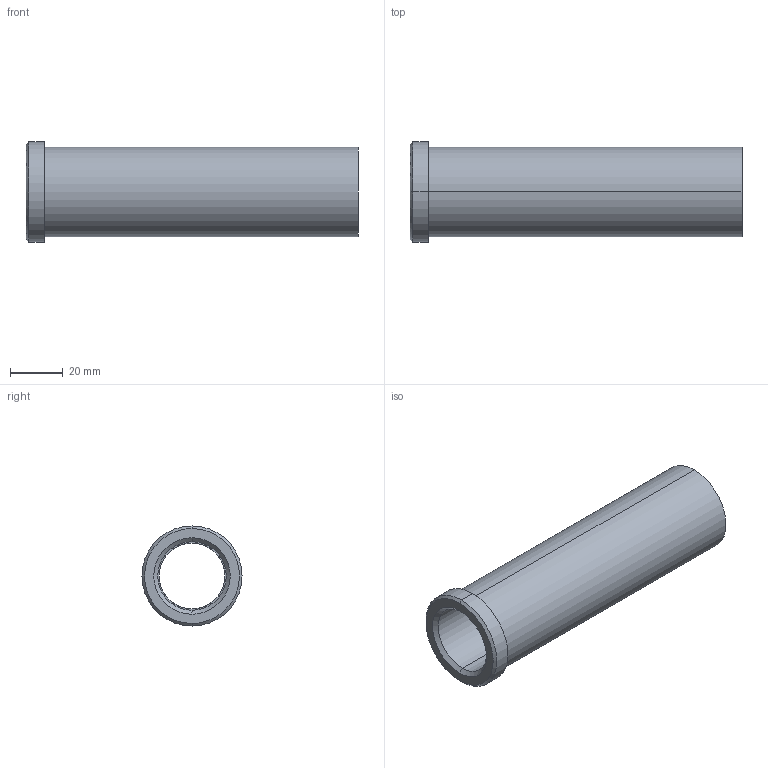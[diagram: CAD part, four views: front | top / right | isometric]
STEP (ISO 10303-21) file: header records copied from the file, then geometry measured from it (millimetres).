
FILE_DESCRIPTION(('CATIA V5 STEP Exchange'),'2;1');
FILE_NAME('C:\Users\Utente\Desktop\IO LAVORO\3D X SITO CF\X SITO\PLASTICA\353\353-25X126.stp','2021-05-12T18:31:11+00:00',('none'),('none'),'CATIA Version 5 Release 20 GA (IN-10)','CATIA V5 STEP AP203','none');
FILE_SCHEMA(('CONFIG_CONTROL_DESIGN'));
Length unit declared in the file: millimetre
Products named in the file (1): 353-25X126
Bounding box: 126 x 38 x 38 mm (x, y, z)
Volume: 50863.1 mm3; surface area: 24762.1 mm2
Topology: 1 solids, 1 shells, 18 faces, 58 edges, 44 vertices
Faces by surface type: cylinder 8, plane 4, cone 4, torus 2
Entity records: 840 total; most frequent: CARTESIAN_POINT 289, ORIENTED_EDGE 116, DIRECTION 82, EDGE_CURVE 58, AXIS2_PLACEMENT_3D 53, VERTEX_POINT 44, CIRCLE 34, EDGE_LOOP 22
